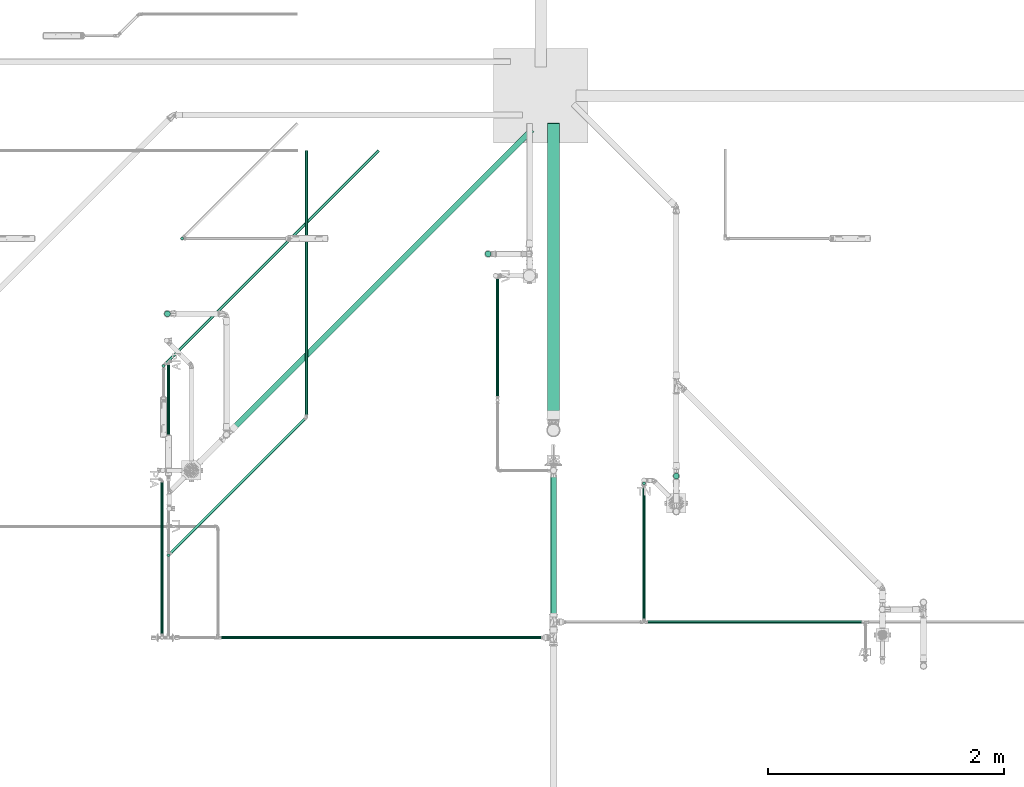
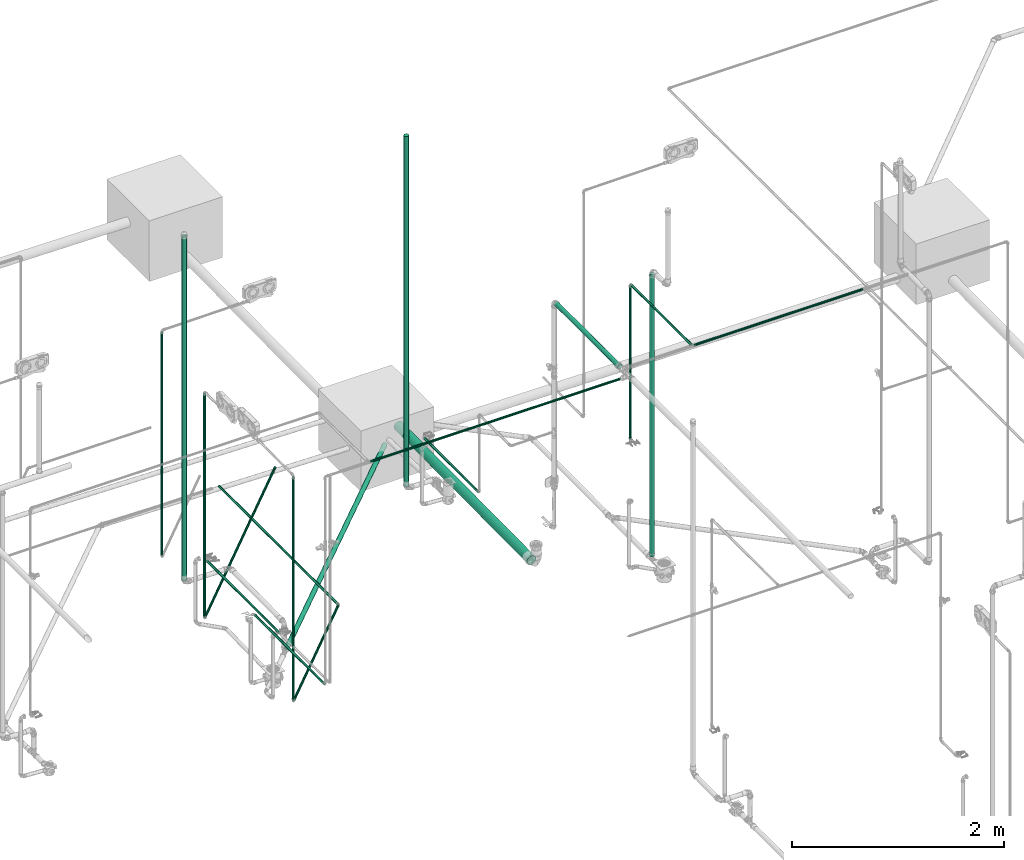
# One storey, part 17 of 589: 19 flow segments.
"""IFC2X3 building model written with IfcOpenShell, lengths in millimetres."""

import ifcopenshell
import ifcopenshell.guid

model = None  # the IFC model being written
_history = None  # IfcOwnerHistory: only IFC2X3 demands one
_inside = {}  # id of a spatial element -> (the spatial element, [elements in it])
_under = {}  # id of a project, library or spatial element -> (it, [spatial elements below it])
_declared = {}  # id of a project -> (the project, [libraries it declares])
_typed = {}  # id of a type object -> (the type object, [elements of that type])
_made_of = {}  # id of a material, layer set ... -> (it, [elements and type objects made of it])


def new_model(schema):
    """Start an empty IFC model of exactly this schema.

    Asked for "IFC4X3", IfcOpenShell would pick the latest addendum, in which some entities
    have other attributes; the version numbers below select the first issue.
    IFC2X3 requires an IfcOwnerHistory on every rooted entity: one is made here for all.
    """
    global model, _history
    if schema == "IFC4X3":
        model = ifcopenshell.file(schema_version=(4, 3, 0, 0))
    else:
        model = ifcopenshell.file(schema=schema)
    _inside.clear()
    _under.clear()
    _declared.clear()
    _typed.clear()
    _made_of.clear()
    _history = None
    if model.schema == "IFC2X3":
        org = make("IfcOrganization", Name="unknown")
        user = make(
            "IfcPersonAndOrganization",
            ThePerson=make("IfcPerson", FamilyName="unknown"),
            TheOrganization=org,
        )
        app = make(
            "IfcApplication",
            ApplicationDeveloper=org,
            Version="unknown",
            ApplicationFullName="unknown",
            ApplicationIdentifier="unknown",
        )
        _history = make(
            "IfcOwnerHistory",
            OwningUser=user,
            OwningApplication=app,
            ChangeAction="ADDED",
            CreationDate=0,
        )
    return model


def make(cls, **values):
    """One entity of the class cls with the attributes given. An attribute that is None is left unset."""
    return model.create_entity(
        cls, **{name: value for name, value in values.items() if value is not None}
    )


def entity(cls, *values):
    """Any entity or typed value of the class cls, its attributes in the order of the schema. None: left unset."""
    e = model.create_entity(cls)
    for i, value in enumerate(values):
        if value is not None:
            e[i] = value
    return e


def rooted(cls, **values):
    """An entity with a GlobalId (a new one), such as an element, a storey or a relation."""
    return make(cls, GlobalId=ifcopenshell.guid.new(), OwnerHistory=_history, **values)


def si_unit(unit_type, name, prefix=None):
    """IfcSIUnit, for example si_unit("LENGTHUNIT", "METRE", prefix="MILLI")."""
    return make("IfcSIUnit", UnitType=unit_type, Prefix=prefix, Name=name)


def converted_unit(unit_type, name, factor, base, dimensions=None, offset=None):
    """IfcConversionBasedUnit, such as the inch: factor (a typed value) times the base unit."""
    return make(
        "IfcConversionBasedUnit"
        if offset is None
        else "IfcConversionBasedUnitWithOffset",
        ConversionOffset=offset,
        Dimensions=None
        if dimensions is None
        else entity("IfcDimensionalExponents", *dimensions),
        UnitType=unit_type,
        Name=name,
        ConversionFactor=make(
            "IfcMeasureWithUnit", ValueComponent=factor, UnitComponent=base
        ),
    )


def derived_unit(unit_type, elements):
    """IfcDerivedUnit: a product of units, each with its exponent."""
    return make(
        "IfcDerivedUnit",
        Elements=[
            make("IfcDerivedUnitElement", Unit=unit, Exponent=power)
            for unit, power in elements
        ],
        UnitType=unit_type,
    )


def assignment(units):
    """IfcUnitAssignment: the units of a project."""
    return None if units is None else make("IfcUnitAssignment", Units=units)


def point(xyz):
    """IfcCartesianPoint."""
    return None if xyz is None else make("IfcCartesianPoint", Coordinates=xyz)


def direction(xyz):
    """IfcDirection."""
    return None if xyz is None else make("IfcDirection", DirectionRatios=xyz)


def frame(location, z_axis=None, x_axis=None):
    """IfcAxis2Placement3D, a coordinate frame: its origin and axes. An axis left out is left unset."""
    return make(
        "IfcAxis2Placement3D",
        Location=point(location),
        Axis=direction(z_axis),
        RefDirection=direction(x_axis),
    )


def frame_2d(location, x_axis=None):
    """IfcAxis2Placement2D, a coordinate frame in the plane: its origin and x axis."""
    return make(
        "IfcAxis2Placement2D", Location=point(location), RefDirection=direction(x_axis)
    )


def origin():
    """The frame at (0, 0, 0) with its axes left unset."""
    return frame((0.0, 0.0, 0.0))


def origin_2d_with_axis():
    """The frame at (0, 0) in the plane with the x axis (1, 0) written out."""
    return frame_2d((0.0, 0.0), x_axis=(1.0, 0.0))


def place(relative_to, where):
    """IfcLocalPlacement: puts the frame where relative to a parent placement (None: the world)."""
    return make(
        "IfcLocalPlacement", PlacementRelTo=relative_to, RelativePlacement=where
    )


def context(
    kind, dimensions, precision=None, world=None, true_north=None, identifier=None
):
    """IfcGeometricRepresentationContext, for example the 3D "Model" context."""
    return make(
        "IfcGeometricRepresentationContext",
        ContextIdentifier=identifier,
        ContextType=kind,
        CoordinateSpaceDimension=dimensions,
        Precision=precision,
        WorldCoordinateSystem=world,
        TrueNorth=true_north,
    )


def subcontext(parent, identifier, kind, view, scale=None):
    """IfcGeometricRepresentationSubContext, for example "Body" below "Model"."""
    return make(
        "IfcGeometricRepresentationSubContext",
        ContextIdentifier=identifier,
        ContextType=kind,
        ParentContext=parent,
        TargetScale=scale,
        TargetView=view,
    )


def project(units=None, contexts=None):
    """IfcProject with its units and contexts."""
    return rooted(
        "IfcProject",
        Name="project",
        RepresentationContexts=contexts,
        UnitsInContext=assignment(units),
    )


def spatial(cls, under=None, at=None, **own):
    """A site, building, storey or space (cls), placed at a placement, below another one or the project."""
    s = rooted(cls, ObjectPlacement=at, **own)
    if under is not None:
        _under.setdefault(under.id(), (under, []))[1].append(s)
    return s


def profile(cls, at=None, kind="AREA", **sizes):
    """A parametric profile (cls). Its sizes go by their IFC names, for example OverallWidth=200.0."""
    return make(cls, ProfileType=kind, Position=at, **sizes)


def circle(**sizes):
    """IfcCircleProfileDef."""
    return profile("IfcCircleProfileDef", **sizes)


def extrude(swept, where, along, depth):
    """IfcExtrudedAreaSolid: the profile swept, set in the frame where, extruded along a direction by depth."""
    return make(
        "IfcExtrudedAreaSolid",
        SweptArea=swept,
        Position=where,
        ExtrudedDirection=direction(along),
        Depth=depth,
    )


def shape(context_of_items, identifier, shape_type, items):
    """IfcShapeRepresentation: the items that make up one representation, for example the "Body"."""
    return make(
        "IfcShapeRepresentation",
        ContextOfItems=context_of_items,
        RepresentationIdentifier=identifier,
        RepresentationType=shape_type,
        Items=items,
    )


def made_of(thing, what):
    """Note that an element or type object is made of a material, layer set ...; save() writes the relation."""
    if what is not None:
        _made_of.setdefault(what.id(), (what, []))[1].append(thing)
    return thing


def type_object(cls, material=None, **own):
    """A type object (cls), such as IfcWallType, which elements share."""
    return made_of(rooted(cls, **own), material)


def element(
    cls,
    number,
    at=None,
    inside=None,
    cuts=None,
    type_object=None,
    material=None,
    context=None,
    identifier="Body",
    shape_type=None,
    held_by="IfcProductDefinitionShape",
    body=None,
    shapes=None,
    **own,
):
    """One element of the class cls, such as IfcWall. Its Tag is "e" and its number.

    at: its placement. inside: the storey or other place that contains it. cuts: it is an
    opening in that element (IfcRelVoidsElement). A single representation is given by context,
    identifier, shape_type and body (its items); several are given by shapes. held_by: the class
    of the entity that holds the representations. save() writes the other relations.
    """
    e = rooted(cls, Tag="e%d" % number, ObjectPlacement=at, **own)
    if body is not None:
        shapes = [shape(context, identifier, shape_type, body)]
    if shapes is not None:
        e.Representation = make(held_by, Representations=shapes)
    if inside is not None:
        _inside.setdefault(inside.id(), (inside, []))[1].append(e)
    if cuts is not None:
        rooted(
            "IfcRelVoidsElement", RelatingBuildingElement=cuts, RelatedOpeningElement=e
        )
    if type_object is not None:
        _typed.setdefault(type_object.id(), (type_object, []))[1].append(e)
    return made_of(e, material)


def aggregate(whole, parts):
    """IfcRelAggregates: a whole, such as a stair, and the parts it consists of."""
    return rooted("IfcRelAggregates", RelatingObject=whole, RelatedObjects=parts)


def save(model, path):
    """Write the relations noted so far, then the file.

    IfcRelAggregates (storeys below a building ...), IfcRelContainedInSpatialStructure (elements
    in a storey), IfcRelDefinesByType, IfcRelAssociatesMaterial and IfcRelDeclares: one each for
    every whole, place, type object, material and project.
    """
    for whole, parts in _under.values():
        aggregate(whole, parts)
    for where, things in _inside.values():
        rooted(
            "IfcRelContainedInSpatialStructure",
            RelatedElements=things,
            RelatingStructure=where,
        )
    for kind, things in _typed.values():
        rooted("IfcRelDefinesByType", RelatedObjects=things, RelatingType=kind)
    for what, things in _made_of.values():
        rooted("IfcRelAssociatesMaterial", RelatedObjects=things, RelatingMaterial=what)
    for by, libraries in _declared.values():
        rooted("IfcRelDeclares", RelatingContext=by, RelatedDefinitions=libraries)
    model.write(path)


model = new_model("IFC2X3")

# Units and contexts
model_context = context("Model", 3, precision=0.01, world=origin(), true_north=direction((6.123031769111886e-17, 1.0)))
body_context = subcontext(model_context, "Body", "Model", "MODEL_VIEW")
ifc_project = project(units=[si_unit("LENGTHUNIT", "METRE", prefix="MILLI"), si_unit("AREAUNIT", "SQUARE_METRE"), si_unit("VOLUMEUNIT", "CUBIC_METRE"), converted_unit("PLANEANGLEUNIT", "DEGREE", entity("IfcRatioMeasure", 0.017453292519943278), si_unit("PLANEANGLEUNIT", "RADIAN"), dimensions=[0, 0, 0, 0, 0, 0, 0]), si_unit("MASSUNIT", "GRAM", prefix="KILO"), derived_unit("MASSDENSITYUNIT", [(si_unit("MASSUNIT", "GRAM", prefix="KILO"), 1), (si_unit("LENGTHUNIT", "METRE"), -3)]), derived_unit("IONCONCENTRATIONUNIT", [(si_unit("MASSUNIT", "GRAM", prefix="KILO"), 1), (si_unit("LENGTHUNIT", "METRE"), -3)]), derived_unit("MOMENTOFINERTIAUNIT", [(si_unit("LENGTHUNIT", "METRE"), 4)]), si_unit("TIMEUNIT", "SECOND"), si_unit("FREQUENCYUNIT", "HERTZ"), si_unit("THERMODYNAMICTEMPERATUREUNIT", "DEGREE_CELSIUS"), derived_unit("THERMALTRANSMITTANCEUNIT", [(si_unit("MASSUNIT", "GRAM", prefix="KILO"), 1), (si_unit("THERMODYNAMICTEMPERATUREUNIT", "KELVIN"), -1), (si_unit("TIMEUNIT", "SECOND"), -3)]), derived_unit("THERMALCONDUCTANCEUNIT", [(si_unit("MASSUNIT", "GRAM", prefix="KILO"), 1), (si_unit("THERMODYNAMICTEMPERATUREUNIT", "KELVIN"), -1), (si_unit("TIMEUNIT", "SECOND"), -3), (si_unit("LENGTHUNIT", "METRE"), 1)]), derived_unit("VOLUMETRICFLOWRATEUNIT", [(si_unit("LENGTHUNIT", "METRE"), 3), (si_unit("TIMEUNIT", "SECOND"), -1)]), derived_unit("MASSFLOWRATEUNIT", [(si_unit("MASSUNIT", "GRAM", prefix="KILO"), 1), (si_unit("TIMEUNIT", "SECOND"), -1)]), derived_unit("ROTATIONALFREQUENCYUNIT", [(si_unit("TIMEUNIT", "SECOND"), -1)]), si_unit("ELECTRICCURRENTUNIT", "AMPERE"), si_unit("ELECTRICVOLTAGEUNIT", "VOLT"), si_unit("POWERUNIT", "WATT"), si_unit("FORCEUNIT", "NEWTON", prefix="KILO"), si_unit("ILLUMINANCEUNIT", "LUX"), si_unit("LUMINOUSFLUXUNIT", "LUMEN"), si_unit("LUMINOUSINTENSITYUNIT", "CANDELA"), derived_unit("USERDEFINED", [(si_unit("MASSUNIT", "GRAM", prefix="KILO"), -1), (si_unit("LENGTHUNIT", "METRE"), -2), (si_unit("TIMEUNIT", "SECOND"), 3), (si_unit("LUMINOUSFLUXUNIT", "LUMEN"), 1)]), derived_unit("USERDEFINED", [(si_unit("MASSUNIT", "GRAM", prefix="KILO"), 1), (si_unit("TIMEUNIT", "SECOND"), -3), (si_unit("LENGTHUNIT", "METRE"), 3), (si_unit("ELECTRICCURRENTUNIT", "AMPERE"), -2)]), derived_unit("SOUNDPOWERUNIT", [(si_unit("MASSUNIT", "GRAM", prefix="KILO"), 1), (si_unit("TIMEUNIT", "SECOND"), -3), (si_unit("LENGTHUNIT", "METRE"), 2)]), derived_unit("SOUNDPRESSUREUNIT", [(si_unit("MASSUNIT", "GRAM", prefix="KILO"), 1), (si_unit("LENGTHUNIT", "METRE"), -1), (si_unit("TIMEUNIT", "SECOND"), -2)]), derived_unit("LINEARVELOCITYUNIT", [(si_unit("LENGTHUNIT", "METRE"), 1), (si_unit("TIMEUNIT", "SECOND"), -1)]), si_unit("PRESSUREUNIT", "PASCAL"), derived_unit("USERDEFINED", [(si_unit("MASSUNIT", "GRAM", prefix="KILO"), 1), (si_unit("LENGTHUNIT", "METRE"), -2), (si_unit("TIMEUNIT", "SECOND"), -2)]), derived_unit("LINEARFORCEUNIT", [(si_unit("MASSUNIT", "GRAM", prefix="KILO"), 1), (si_unit("TIMEUNIT", "SECOND"), -2)]), derived_unit("PLANARFORCEUNIT", [(si_unit("MASSUNIT", "GRAM", prefix="KILO"), 1), (si_unit("LENGTHUNIT", "METRE"), -1), (si_unit("TIMEUNIT", "SECOND"), -2)]), derived_unit("SPECIFICHEATCAPACITYUNIT", [(si_unit("THERMODYNAMICTEMPERATUREUNIT", "KELVIN"), -1), (si_unit("LENGTHUNIT", "METRE"), 2), (si_unit("TIMEUNIT", "SECOND"), -2)]), derived_unit("HEATINGVALUEUNIT", [(si_unit("LENGTHUNIT", "METRE"), 2), (si_unit("TIMEUNIT", "SECOND"), -2)]), derived_unit("VAPORPERMEABILITYUNIT", [(si_unit("LENGTHUNIT", "METRE"), -1), (si_unit("TIMEUNIT", "SECOND"), 1)]), derived_unit("DYNAMICVISCOSITYUNIT", [(si_unit("MASSUNIT", "GRAM", prefix="KILO"), 1), (si_unit("TIMEUNIT", "SECOND"), -1), (si_unit("LENGTHUNIT", "METRE"), -1)]), derived_unit("THERMALEXPANSIONCOEFFICIENTUNIT", [(si_unit("THERMODYNAMICTEMPERATUREUNIT", "KELVIN"), -1)]), derived_unit("MODULUSOFELASTICITYUNIT", [(si_unit("MASSUNIT", "GRAM", prefix="KILO"), 1), (si_unit("LENGTHUNIT", "METRE"), -1), (si_unit("TIMEUNIT", "SECOND"), -2)]), derived_unit("ISOTHERMALMOISTURECAPACITYUNIT", [(si_unit("LENGTHUNIT", "METRE"), 3), (si_unit("MASSUNIT", "GRAM", prefix="KILO"), -1)]), derived_unit("MOISTUREDIFFUSIVITYUNIT", [(si_unit("TIMEUNIT", "SECOND"), -1), (si_unit("LENGTHUNIT", "METRE"), 2)])], contexts=[model_context])

# Site, building, storey
site_placement = place(None, origin())
site = spatial("IfcSite", under=ifc_project, at=site_placement, Name="Default", CompositionType="ELEMENT")
building_placement = place(site_placement, origin())
building = spatial("IfcBuilding", under=site, at=building_placement, CompositionType="ELEMENT")
storey_placement = place(building_placement, frame((0.0, 0.0, 100.0)))
storey = spatial("IfcBuildingStorey", under=building, at=storey_placement, Name="TÉRREO", CompositionType="ELEMENT", Elevation=100.0)

# Flow segments
pipe_segment_type_1 = type_object("IfcPipeSegmentType", Name="Tipos de tubos:PVC Esgoto Série Normal", PredefinedType="NOTDEFINED")
flow_segment_1_placement = place(storey_placement, origin())
element("IfcFlowSegment", 1, at=flow_segment_1_placement, inside=storey, type_object=pipe_segment_type_1, Name="Tipos de tubos:PVC Esgoto Série Normal", ObjectType="Tipos de tubos:PVC Esgoto Série Normal", context=body_context, shape_type="SweptSolid", body=[
    extrude(circle(Radius=25.0, at=origin_2d_with_axis()), frame((10062.73595310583, 1357.0692483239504, -44.267559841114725)), (0.0, 0.0, 1.0), 4044.267560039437),
])
flow_segment_2_placement = place(storey_placement, origin())
element("IfcFlowSegment", 2, at=flow_segment_2_placement, inside=storey, type_object=pipe_segment_type_1, Name="Tipos de tubos:PVC Esgoto Série Normal", ObjectType="Tipos de tubos:PVC Esgoto Série Normal", context=body_context, shape_type="SweptSolid", body=[
    extrude(circle(Radius=50.0, at=frame_2d((0.0, -3.39225007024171e-14), x_axis=(1.0, 0.0))), frame((10615.99777647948, -52.47881639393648, -240.8687948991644), z_axis=(0.0, 0.9999500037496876, 0.009999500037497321), x_axis=(1.0, 0.0, 0.0)), (0.0, 0.0, 1.0), 2516.7161000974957),
])
flow_segment_3_placement = place(storey_placement, origin())
element("IfcFlowSegment", 3, at=flow_segment_3_placement, inside=storey, type_object=pipe_segment_type_1, Name="Tipos de tubos:PVC Esgoto Série Normal", ObjectType="Tipos de tubos:PVC Esgoto Série Normal", context=body_context, shape_type="SweptSolid", body=[
    extrude(circle(Radius=25.0, at=origin_2d_with_axis()), frame((11656.471838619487, -523.7500717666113, -264.0188124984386), z_axis=(0.0, -6.25058373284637e-06, 1.0), x_axis=(-1.0, 0.0, 0.0)), (0.0, 0.0, 1.0), 3253.467016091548),
])
flow_segment_4_placement = place(storey_placement, origin())
element("IfcFlowSegment", 4, at=flow_segment_4_placement, inside=storey, type_object=pipe_segment_type_1, Name="Tipos de tubos:PVC Esgoto Série Normal", ObjectType="Tipos de tubos:PVC Esgoto Série Normal", context=body_context, shape_type="SweptSolid", body=[
    extrude(circle(Radius=25.0, at=frame_2d((2.3928209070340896e-14, -3.335157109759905e-14), x_axis=(1.0, 0.0))), frame((7907.135419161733, -117.86486928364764, -265.2886578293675), z_axis=(0.7069637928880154, 0.7069637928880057, -0.020109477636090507), x_axis=(0.7071067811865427, -0.7071067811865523, 0.0)), (0.0, 0.0, 1.0), 3575.24730525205),
])
flow_segment_5_placement = place(storey_placement, origin())
element("IfcFlowSegment", 5, at=flow_segment_5_placement, inside=storey, type_object=pipe_segment_type_1, Name="Tipos de tubos:PVC Esgoto Série Normal", ObjectType="Tipos de tubos:PVC Esgoto Série Normal", context=body_context, shape_type="SweptSolid", body=[
    extrude(circle(Radius=25.0, at=frame_2d((-1.0828671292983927e-12, 0.0), x_axis=(1.0, 0.0))), frame((7346.407229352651, 850.8590199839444, 129.38138614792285), z_axis=(0.0, 0.0, 1.0), x_axis=(-1.0, 0.0, 0.0)), (0.0, 0.0, 1.0), 3970.518613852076),
])
pipe_segment_type_2 = type_object("IfcPipeSegmentType", Name="Tipos de tubos:PVC Marrom Soldável", PredefinedType="NOTDEFINED")
flow_segment_6_placement = place(storey_placement, origin())
element("IfcFlowSegment", 6, at=flow_segment_6_placement, inside=storey, type_object=pipe_segment_type_2, Name="Tipos de tubos:PVC Marrom Soldável", ObjectType="Tipos de tubos:PVC Marrom Soldável", context=body_context, shape_type="SweptSolid", body=[
    extrude(circle(Radius=12.5, at=frame_2d((0.0, -1.353583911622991e-13), x_axis=(1.0, 0.0))), frame((10142.525329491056, 135.13882784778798, 599.9999690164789), z_axis=(0.0, 1.0, 0.0), x_axis=(1.0, 0.0, 0.0)), (0.0, 0.0, 1.0), 1020.8793011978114),
])
flow_segment_7_placement = place(storey_placement, origin())
element("IfcFlowSegment", 7, at=flow_segment_7_placement, inside=storey, type_object=pipe_segment_type_2, Name="Tipos de tubos:PVC Marrom Soldável", ObjectType="Tipos de tubos:PVC Marrom Soldável", context=body_context, shape_type="SweptSolid", body=[
    extrude(circle(Radius=12.5, at=origin_2d_with_axis()), frame((11383.021256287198, -585.9585524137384, 1216.3000000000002), z_axis=(0.0, 0.0, 1.0), x_axis=(-1.0, 0.0, 0.0)), (0.0, 0.0, 1.0), 1768.3000000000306),
])
flow_segment_8_placement = place(storey_placement, origin())
element("IfcFlowSegment", 8, at=flow_segment_8_placement, inside=storey, type_object=pipe_segment_type_2, Name="Tipos de tubos:PVC Marrom Soldável", ObjectType="Tipos de tubos:PVC Marrom Soldável", context=body_context, shape_type="SweptSolid", body=[
    extrude(circle(Radius=25.0, at=origin_2d_with_axis()), frame((10616.154026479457, -1716.7314166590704, 3000.0), z_axis=(0.0, 1.0, 0.0), x_axis=(-1.0, 0.0, 0.0)), (0.0, 0.0, 1.0), 1210.1702445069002),
])
flow_segment_9_placement = place(storey_placement, origin())
element("IfcFlowSegment", 9, at=flow_segment_9_placement, inside=storey, type_object=pipe_segment_type_2, Name="Tipos de tubos:PVC Marrom Soldável", ObjectType="Tipos de tubos:PVC Marrom Soldável", context=body_context, shape_type="SweptSolid", body=[
    extrude(circle(Radius=12.5, at=origin_2d_with_axis()), frame((11383.021256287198, -1746.2814166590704, 3000.0), z_axis=(0.0, 1.0, 0.0), x_axis=(-1.0, 0.0, 0.0)), (0.0, 0.0, 1.0), 1144.922864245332),
])
flow_segment_10_placement = place(storey_placement, origin())
element("IfcFlowSegment", 10, at=flow_segment_10_placement, inside=storey, type_object=pipe_segment_type_2, Name="Tipos de tubos:PVC Marrom Soldável", ObjectType="Tipos de tubos:PVC Marrom Soldável", context=body_context, shape_type="SweptSolid", body=[
    extrude(circle(Radius=12.5, at=origin_2d_with_axis()), frame((11398.9212562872, -1760.7814166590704, 3000.0), z_axis=(1.0, 0.0, 0.0), x_axis=(0.0, -1.0, 0.0)), (0.0, 0.0, 1.0), 1842.5996765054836),
])
flow_segment_11_placement = place(storey_placement, origin())
element("IfcFlowSegment", 11, at=flow_segment_11_placement, inside=storey, type_object=pipe_segment_type_2, Name="Tipos de tubos:PVC Marrom Soldável", ObjectType="Tipos de tubos:PVC Marrom Soldável", context=body_context, shape_type="SweptSolid", body=[
    extrude(circle(Radius=12.5, at=frame_2d((-6.284231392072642e-19, 0.0), x_axis=(1.0, 0.0))), frame((7471.389055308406, 1487.2074695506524, -20.75248696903)), (0.0, 0.0, 1.0), 2581.889370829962),
])
flow_segment_12_placement = place(storey_placement, origin())
element("IfcFlowSegment", 12, at=flow_segment_12_placement, inside=storey, type_object=pipe_segment_type_2, Name="Tipos de tubos:PVC Marrom Soldável", ObjectType="Tipos de tubos:PVC Marrom Soldável", context=body_context, shape_type="SweptSolid", body=[
    extrude(circle(Radius=12.5, at=frame_2d((7.657023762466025e-13, -8.459899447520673e-15), x_axis=(1.0, 0.0))), frame((7367.580645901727, -1183.7122217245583, -37.35465099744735), z_axis=(0.7071070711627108, 0.7071064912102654, 0.0), x_axis=(0.7071064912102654, -0.7071070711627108, 0.0)), (0.0, 0.0, 1.0), 1627.7866783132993),
])
flow_segment_13_placement = place(storey_placement, origin())
element("IfcFlowSegment", 13, at=flow_segment_13_placement, inside=storey, type_object=pipe_segment_type_2, Name="Tipos de tubos:PVC Marrom Soldável", ObjectType="Tipos de tubos:PVC Marrom Soldável", context=body_context, shape_type="SweptSolid", body=[
    extrude(circle(Radius=12.5, at=frame_2d((0.0, -1.353583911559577e-13), x_axis=(1.0, 0.0))), frame((7355.842598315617, -1195.4501086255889, -20.75454490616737)), (0.0, 0.0, 1.0), 2575.2567404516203),
])
flow_segment_14_placement = place(storey_placement, origin())
element("IfcFlowSegment", 14, at=flow_segment_14_placement, inside=storey, type_object=pipe_segment_type_2, Name="Tipos de tubos:PVC Marrom Soldável", ObjectType="Tipos de tubos:PVC Marrom Soldável", context=body_context, shape_type="SweptSolid", body=[
    extrude(circle(Radius=12.5, at=frame_2d((1.0828671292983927e-12, -8.459899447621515e-15), x_axis=(1.0, 0.0))), frame((8523.91778364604, -19.85571844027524, -37.35465099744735), z_axis=(0.0, 1.0, -2.2897445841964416e-06), x_axis=(1.0, 0.0, 0.0)), (0.0, 0.0, 1.0), 2252.052066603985),
])
flow_segment_15_placement = place(storey_placement, origin())
element("IfcFlowSegment", 15, at=flow_segment_15_placement, inside=storey, type_object=pipe_segment_type_2, Name="Tipos de tubos:PVC Marrom Soldável", ObjectType="Tipos de tubos:PVC Marrom Soldável", context=body_context, shape_type="SweptSolid", body=[
    extrude(circle(Radius=12.5, at=frame_2d((-4.785641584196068e-14, -8.459899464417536e-15), x_axis=(1.0, 0.0))), frame((7325.634167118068, 421.2942793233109, -37.35714509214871), z_axis=(0.7071067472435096, 0.7071068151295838, 0.0), x_axis=(0.7071068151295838, -0.7071067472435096, 0.0)), (0.0, 0.0, 1.0), 2561.0021429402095),
])
flow_segment_16_placement = place(storey_placement, origin())
element("IfcFlowSegment", 16, at=flow_segment_16_placement, inside=storey, type_object=pipe_segment_type_2, Name="Tipos de tubos:PVC Marrom Soldável", ObjectType="Tipos de tubos:PVC Marrom Soldável", context=body_context, shape_type="SweptSolid", body=[
    extrude(circle(Radius=12.5, at=frame_2d((0.0, -1.859011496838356e-19), x_axis=(1.0, 0.0))), frame((7313.896183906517, 409.5563189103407, -20.75703900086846)), (0.0, 0.0, 1.0), 2580.6855571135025),
])
flow_segment_17_placement = place(storey_placement, origin())
element("IfcFlowSegment", 17, at=flow_segment_17_placement, inside=storey, type_object=pipe_segment_type_2, Name="Tipos de tubos:PVC Marrom Soldável", ObjectType="Tipos de tubos:PVC Marrom Soldável", context=body_context, shape_type="SweptSolid", body=[
    extrude(circle(Radius=12.5, at=frame_2d((0.0, -1.353583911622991e-13), x_axis=(1.0, 0.0))), frame((7354.0693812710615, -932.9056232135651, 600.0), z_axis=(0.0, 1.0, 0.0), x_axis=(1.0, 0.0, 0.0)), (0.0, 0.0, 1.0), 1363.9237522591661),
])
flow_segment_18_placement = place(storey_placement, origin())
element("IfcFlowSegment", 18, at=flow_segment_18_placement, inside=storey, type_object=pipe_segment_type_2, Name="Tipos de tubos:PVC Marrom Soldável", ObjectType="Tipos de tubos:PVC Marrom Soldável", context=body_context, shape_type="SweptSolid", body=[
    extrude(circle(Radius=12.5, at=frame_2d((0.0, -1.353583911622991e-13), x_axis=(1.0, 0.0))), frame((7301.1693911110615, -1877.6948412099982, 600.0), z_axis=(0.0, 1.0, 0.0), x_axis=(1.0, 0.0, 0.0)), (0.0, 0.0, 1.0), 1311.1053398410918),
])
flow_segment_19_placement = place(storey_placement, origin())
element("IfcFlowSegment", 19, at=flow_segment_19_placement, inside=storey, type_object=pipe_segment_type_2, Name="Tipos de tubos:PVC Marrom Soldável", ObjectType="Tipos de tubos:PVC Marrom Soldável", context=body_context, shape_type="SweptSolid", body=[
    extrude(circle(Radius=12.5, at=origin_2d_with_axis()), frame((7790.0468042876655, -1892.4162401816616, 3000.0), z_axis=(1.0, 0.0, 0.0), x_axis=(0.0, -1.0, 0.0)), (0.0, 0.0, 1.0), 2731.807221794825),
])

save(model, "model.ifc")
